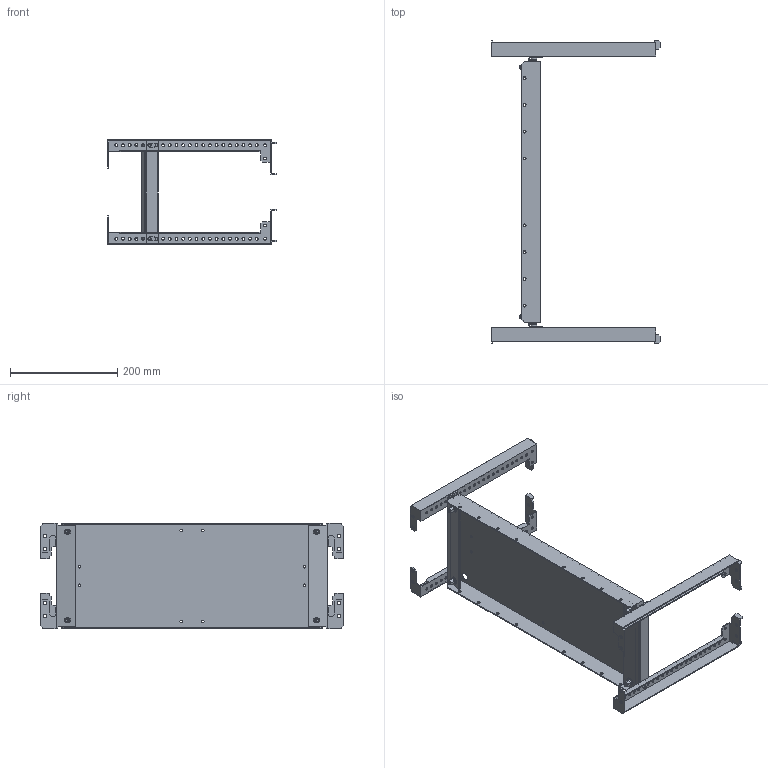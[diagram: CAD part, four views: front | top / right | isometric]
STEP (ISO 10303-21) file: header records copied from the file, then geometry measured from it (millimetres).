
FILE_DESCRIPTION (( 'STEP AP214' ), '1' );
FILE_NAME ('FO-00-MPU-020-060 Ïàíåëü ìîíòàæíàÿ óíèâåðñàëüíàÿ 200?600 ìì.STEP', '2025-07-16T07:05:49', ( '' ), ( '' ), 'SwSTEP 2.0', 'SolidWorks 2023', '' );
FILE_SCHEMA (( 'AUTOMOTIVE_DESIGN' ));
Length unit declared in the file: millimetre
Products named in the file (5): Траверса горизонтальнаяD; Панель монтажная универсальная 200x600; Винты DIN 912 4xM6x20; Траверса горизонтальная; FO-00-MPU-020-060 Панель монтажная универсальная 200×600 мм
Assembly tree (6 placements, depth 2):
  FO-00-MPU-020-060 Панель монтажная универсальная 200×600 мм
    Панель монтажная универсальная 200x600
    Траверса горизонтальная  x2
    Траверса горизонтальнаяD  x2
    Винты DIN 912 4xM6x20
Bounding box: 314.5 x 565.63 x 197 mm (x, y, z)
Volume: 506822.6 mm3; surface area: 522482.3 mm2
Topology: 9 solids, 13 shells, 1010 faces, 2744 edges, 1808 vertices
Faces by surface type: cylinder 468, plane 454, cone 56, torus 32
Entity records: 26087 total; most frequent: CARTESIAN_POINT 5387, DIRECTION 4400, ORIENTED_EDGE 4156, EDGE_CURVE 2078, AXIS2_PLACEMENT_3D 1609, VERTEX_POINT 1364, LINE 1182, VECTOR 1182
